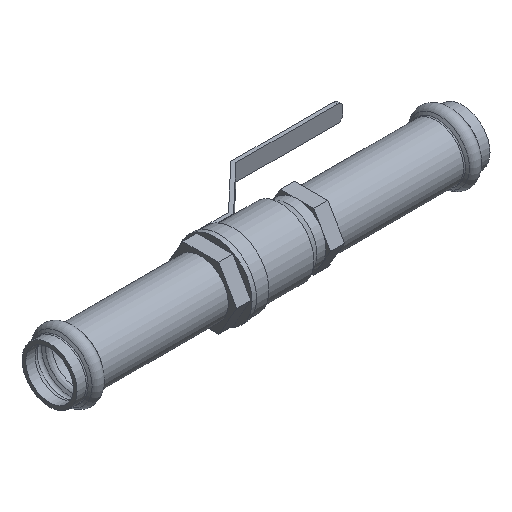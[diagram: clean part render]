
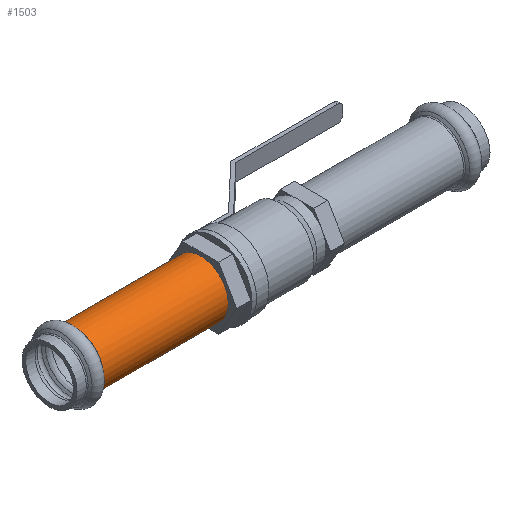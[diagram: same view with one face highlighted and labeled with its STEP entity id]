
A CAD part, isometric view. The second image highlights one B-rep face of the part: STEP entity #1503.
In plain terms, the highlighted cylindrical face has radius 15.443 mm (diameter 30.886 mm), a full revolution.
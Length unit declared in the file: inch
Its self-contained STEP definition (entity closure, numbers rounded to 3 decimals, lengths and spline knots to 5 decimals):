
#96=CYLINDRICAL_SURFACE('',#1689,0.608);
#120=LINE('',#2516,#211);
#211=VECTOR('',#2042,0.608);
#325=FACE_OUTER_BOUND('',#399,.T.);
#399=EDGE_LOOP('',(#1155,#1156,#1157,#1158,#1159,#1160,#1161));
#542=CIRCLE('',#1686,0.608);
#543=CIRCLE('',#1687,0.608);
#544=CIRCLE('',#1688,0.608);
#545=CIRCLE('',#1690,0.608);
#546=CIRCLE('',#1691,0.608);
#656=VERTEX_POINT('',#2504);
#657=VERTEX_POINT('',#2506);
#658=VERTEX_POINT('',#2508);
#659=VERTEX_POINT('',#2512);
#660=VERTEX_POINT('',#2513);
#837=EDGE_CURVE('',#657,#656,#542,.T.);
#838=EDGE_CURVE('',#658,#657,#543,.T.);
#839=EDGE_CURVE('',#656,#658,#544,.T.);
#840=EDGE_CURVE('',#659,#660,#545,.T.);
#841=EDGE_CURVE('',#660,#659,#546,.T.);
#842=EDGE_CURVE('',#660,#658,#120,.T.);
#1155=ORIENTED_EDGE('',*,*,#840,.F.);
#1156=ORIENTED_EDGE('',*,*,#841,.F.);
#1157=ORIENTED_EDGE('',*,*,#842,.T.);
#1158=ORIENTED_EDGE('',*,*,#838,.T.);
#1159=ORIENTED_EDGE('',*,*,#837,.T.);
#1160=ORIENTED_EDGE('',*,*,#839,.T.);
#1161=ORIENTED_EDGE('',*,*,#842,.F.);
#1503=ADVANCED_FACE('',(#325),#96,.T.);
#1686=AXIS2_PLACEMENT_3D('',#2507,#2030,#2031);
#1687=AXIS2_PLACEMENT_3D('',#2509,#2032,#2033);
#1688=AXIS2_PLACEMENT_3D('',#2510,#2034,#2035);
#1689=AXIS2_PLACEMENT_3D('',#2511,#2036,#2037);
#1690=AXIS2_PLACEMENT_3D('',#2514,#2038,#2039);
#1691=AXIS2_PLACEMENT_3D('',#2515,#2040,#2041);
#2030=DIRECTION('center_axis',(1.,0.,0.));
#2031=DIRECTION('ref_axis',(0.,0.,-1.));
#2032=DIRECTION('center_axis',(1.,0.,0.));
#2033=DIRECTION('ref_axis',(0.,0.,-1.));
#2034=DIRECTION('center_axis',(1.,0.,0.));
#2035=DIRECTION('ref_axis',(0.,0.,-1.));
#2036=DIRECTION('center_axis',(1.,0.,0.));
#2037=DIRECTION('ref_axis',(0.,1.,0.));
#2038=DIRECTION('center_axis',(1.,0.,0.));
#2039=DIRECTION('ref_axis',(0.,1.,0.));
#2040=DIRECTION('center_axis',(1.,0.,0.));
#2041=DIRECTION('ref_axis',(0.,1.,0.));
#2042=DIRECTION('',(-1.,0.,0.));
#2504=CARTESIAN_POINT('',(-3.97613,0.,0.608));
#2506=CARTESIAN_POINT('',(-3.97613,0.608,0.));
#2507=CARTESIAN_POINT('Origin',(-3.97613,0.,
0.));
#2508=CARTESIAN_POINT('',(-3.97613,-0.608,0.));
#2509=CARTESIAN_POINT('Origin',(-3.97613,0.,
0.));
#2510=CARTESIAN_POINT('Origin',(-3.97613,0.,
0.));
#2511=CARTESIAN_POINT('Origin',(-2.59807,0.,
0.));
#2512=CARTESIAN_POINT('',(-1.22,0.608,0.));
#2513=CARTESIAN_POINT('',(-1.22,-0.608,0.));
#2514=CARTESIAN_POINT('Origin',(-1.22,0.,0.));
#2515=CARTESIAN_POINT('Origin',(-1.22,0.,0.));
#2516=CARTESIAN_POINT('',(-2.59807,-0.608,0.));
